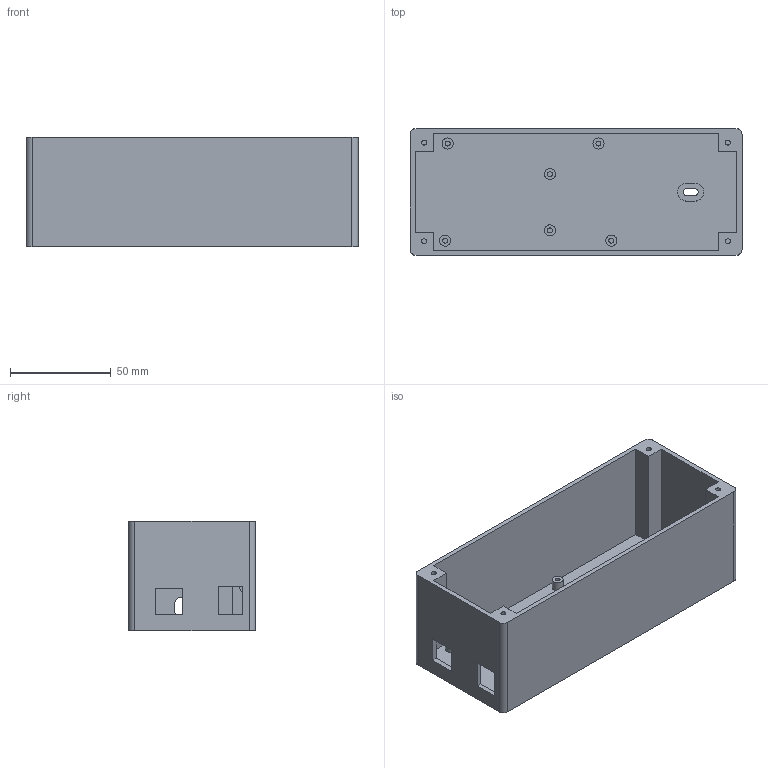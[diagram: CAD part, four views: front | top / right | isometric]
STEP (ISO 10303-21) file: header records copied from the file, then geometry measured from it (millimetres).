
FILE_DESCRIPTION(('FreeCAD Model'),'2;1');
FILE_NAME('Open CASCADE Shape Model','2026-11-18T13:30:38',('FreeCAD'),( 'FreeCAD'),'Open CASCADE STEP processor 8.0','FreeCAD','Unknown');
FILE_SCHEMA(('AUTOMOTIVE_DESIGN { 1 0 10303 214 1 1 1 1 }'));
Length unit declared in the file: millimetre
Products named in the file (1): Open CASCADE STEP translator 8.0 1
Bounding box: 165 x 63 x 54.5 mm (x, y, z)
Volume: 96465.7 mm3; surface area: 69094.3 mm2
Topology: 1 solids, 1 shells, 90 faces, 208 edges, 138 vertices
Faces by surface type: plane 60, cylinder 30
Full cylindrical faces by diameter (mm): 2.5 x10, 5.5 x6
Entity records: 2584 total; most frequent: DIRECTION 452, CARTESIAN_POINT 437, ORIENTED_EDGE 416, EDGE_CURVE 208, AXIS2_PLACEMENT_3D 153, LINE 146, VECTOR 146, VERTEX_POINT 138
